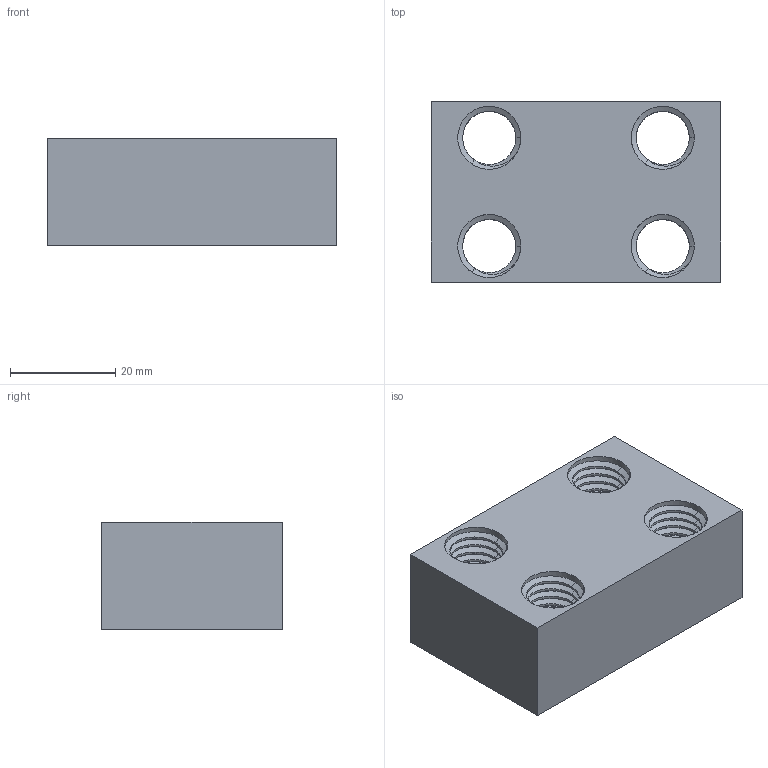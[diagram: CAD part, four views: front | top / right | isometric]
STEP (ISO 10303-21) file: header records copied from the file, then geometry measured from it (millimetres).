
FILE_DESCRIPTION(('Mechanical CAD reference from nasji.com'),'2;1');
FILE_NAME('NASJI.step','',(''),(''),'','NASJI distribution','');
FILE_SCHEMA(('AUTOMOTIVE_DESIGN { 1 0 10303 214 1 1 1 1 }'));
Products named in the file (1): Open CASCADE STEP translator 7.8 165
Bounding box: 55 x 34.3 x 20.4 mm (x, y, z)
Volume: 30684.7 mm3; surface area: 10998.7 mm2
Topology: 1 solids, 1 shells, 550 faces, 1548 edges, 1000 vertices
Faces by surface type: bspline 492, cylinder 44, plane 14
Full cylindrical faces by diameter (mm): 12 x44
Entity records: 74708 total; most frequent: CARTESIAN_POINT 52653, ORIENTED_EDGE 3096, PCURVE 3096, DEFINITIONAL_REPRESENTATION 3096, B_SPLINE_CURVE_WITH_KNOTS 2936, EDGE_CURVE 1548, SURFACE_CURVE 1540, DIRECTION 1402
